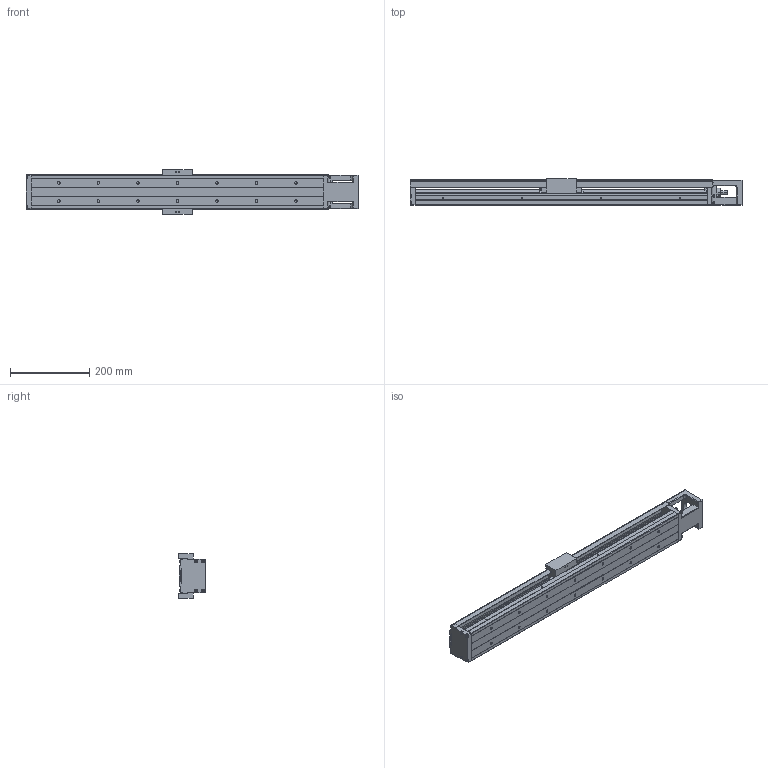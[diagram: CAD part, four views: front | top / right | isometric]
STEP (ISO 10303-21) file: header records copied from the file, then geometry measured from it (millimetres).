
FILE_DESCRIPTION (( 'STEP AP203' ), '1' );
FILE_NAME ('HKK86D20C-740A1-F0C.stp', '2021-11-26T08:28:29', ( '' ), ( '' ), 'SwSTEP 2.0', 'SolidWorks 2018', '' );
FILE_SCHEMA (( 'CONFIG_CONTROL_DESIGN' ));
Length unit declared in the file: millimetre
Products named in the file (1): HKK86D20C-740A1-F0C
Bounding box: 840 x 68 x 112 mm (x, y, z)
Volume: 1995180.2 mm3; surface area: 528939.2 mm2
Topology: 2 solids, 11 shells, 847 faces, 2237 edges, 1416 vertices
Faces by surface type: plane 447, cylinder 297, cone 78, sphere 9, bspline 8, torus 8
Entity records: 26649 total; most frequent: CARTESIAN_POINT 5513, DIRECTION 4407, ORIENTED_EDGE 4342, EDGE_CURVE 2171, AXIS2_PLACEMENT_3D 1485, LINE 1437, VECTOR 1437, VERTEX_POINT 1412
